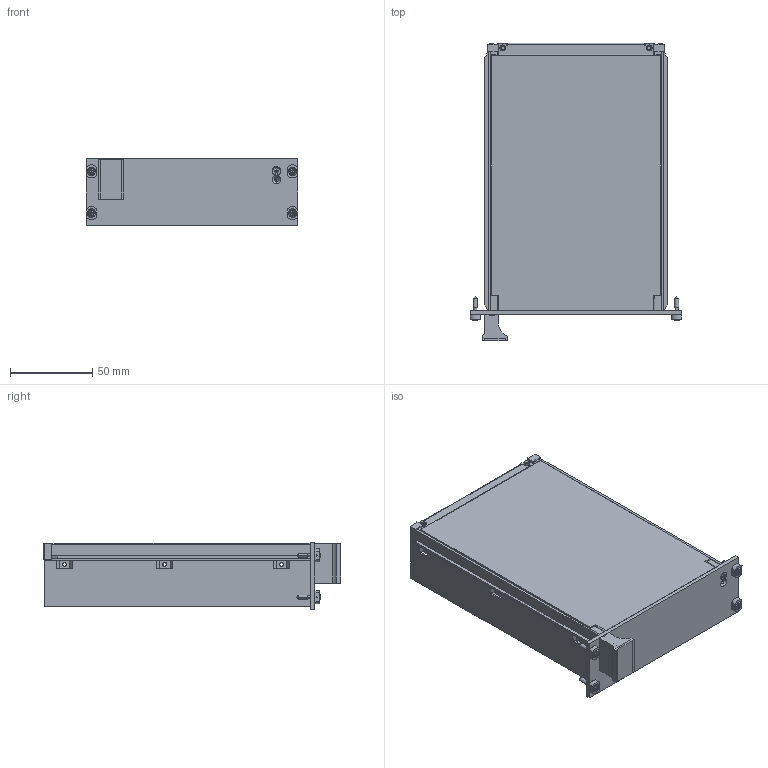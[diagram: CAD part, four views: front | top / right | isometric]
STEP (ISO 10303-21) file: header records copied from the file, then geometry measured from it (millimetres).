
FILE_DESCRIPTION (( 'STEP AP203' ), '1' );
FILE_NAME ('08316710 VERO耀璃碟 3U 8HP 籵瑞.STEP', '2026-03-28T08:44:38', ( '' ), ( '' ), 'SwSTEP 2.0', 'SolidWorks 2013', '' );
FILE_SCHEMA (( 'CONFIG_CONTROL_DESIGN' ));
Length unit declared in the file: millimetre
Products named in the file (12): M2.5-6十字槽沉头螺钉_M2.5×6; M2.5-12醱啣蹟隊-坋趼; 3U8HP醱啣; 窪呿蹋參忒; 耀碟臏絳寢; 3U耀璃碟裔; 耀碟嘐隅輸; 窪呿蹋參忒梓齪; M2.5踢扽邳埴杶簽; 08316710 VERO耀璃碟 3U 8HP 籵瑞; 窪呿蹋參忒郪璃; 3U8耀璃碟菁
Assembly tree (19 placements, depth 3):
  08316710 VERO耀璃碟 3U 8HP 籵瑞
    3U耀璃碟裔
    3U8耀璃碟菁
    3U8HP醱啣
    耀碟臏絳寢  x2
    耀碟嘐隅輸  x2
    窪呿蹋參忒郪璃
      窪呿蹋參忒
      窪呿蹋參忒梓齪
    M2.5踢扽邳埴杶簽  x4
    M2.5-12醱啣蹟隊-坋趼  x4
    M2.5-6十字槽沉头螺钉_M2.5×6
Bounding box: 128.7 x 181.19 x 40.34 mm (x, y, z)
Volume: 66364.1 mm3; surface area: 127712.1 mm2
Topology: 18 solids, 18 shells, 1107 faces, 2921 edges, 1897 vertices
Faces by surface type: plane 698, cylinder 211, bspline 127, cone 41, torus 18, sphere 12
Entity records: 32831 total; most frequent: CARTESIAN_POINT 10454, ORIENTED_EDGE 4582, DIRECTION 3856, EDGE_CURVE 2291, LINE 1674, VECTOR 1674, VERTEX_POINT 1489, AXIS2_PLACEMENT_3D 1091
